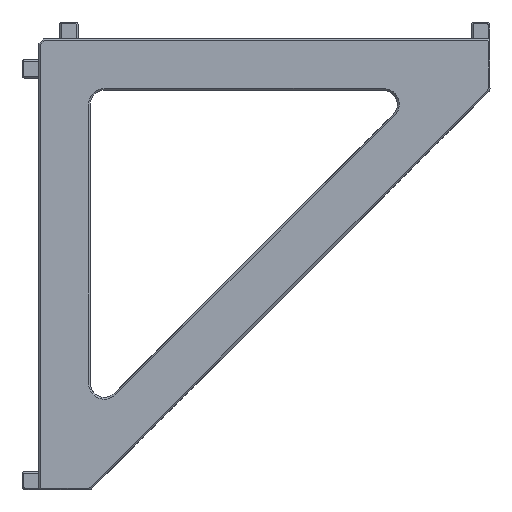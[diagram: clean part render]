
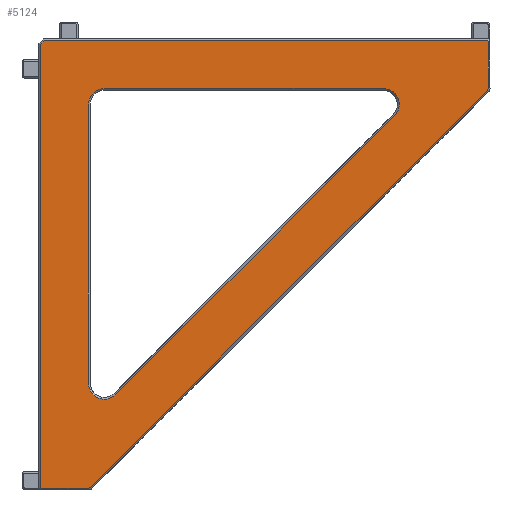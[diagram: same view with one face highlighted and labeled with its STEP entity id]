
A CAD part, front view. The second image highlights one B-rep face of the part: STEP entity #5124.
In plain terms, the highlighted planar face has unit normal (0, -1, 0).
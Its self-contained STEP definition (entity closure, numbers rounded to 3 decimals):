
#12 = CARTESIAN_POINT ( 'NONE',  ( 49.712, 0., -7.305 ) ) ;
#102 = VERTEX_POINT ( 'NONE', #2669 ) ;
#128 = CARTESIAN_POINT ( 'NONE',  ( 7.093, 0., -49.8 ) ) ;
#324 = CARTESIAN_POINT ( 'NONE',  ( 7.1, 0., -8.8 ) ) ;
#370 = ORIENTED_EDGE ( 'NONE', *, *, #4143, .F. ) ;
#586 = EDGE_CURVE ( 'NONE', #102, #2717, #5660, .T. ) ;
#590 = CARTESIAN_POINT ( 'NONE',  ( 7.305, 0., -49.712 ) ) ;
#604 = CARTESIAN_POINT ( 'NONE',  ( 49.712, 0., -7.305 ) ) ;
#619 = DIRECTION ( 'NONE',  ( 0., 0., 1. ) ) ;
#725 = CARTESIAN_POINT ( 'NONE',  ( 38.601, 0., -8.8 ) ) ;
#751 = ORIENTED_EDGE ( 'NONE', *, *, #7399, .F. ) ;
#775 = EDGE_CURVE ( 'NONE', #3687, #3125, #5927, .T. ) ;
#876 = DIRECTION ( 'NONE',  ( 0., 0., 1. ) ) ;
#995 = AXIS2_PLACEMENT_3D ( 'NONE', #2435, #5630, #8808 ) ;
#1010 = AXIS2_PLACEMENT_3D ( 'NONE', #6008, #9186, #2035 ) ;
#1079 = ORIENTED_EDGE ( 'NONE', *, *, #3416, .F. ) ;
#1380 = LINE ( 'NONE', #4590, #7057 ) ;
#1670 = DIRECTION ( 'NONE',  ( 0., 0., -1. ) ) ;
#1701 = DIRECTION ( 'NONE',  ( -0.707, 0., 0.707 ) ) ;
#1725 = DIRECTION ( 'NONE',  ( -1., 0., 0. ) ) ;
#1765 = VERTEX_POINT ( 'NONE', #590 ) ;
#1917 = CARTESIAN_POINT ( 'NONE',  ( 0., 0., -2. ) ) ;
#1929 = VECTOR ( 'NONE', #1701, 1000. ) ;
#1935 = CARTESIAN_POINT ( 'NONE',  ( 49.717, 0., -2. ) ) ;
#1950 = DIRECTION ( 'NONE',  ( 0.707, 0., 0.707 ) ) ;
#2007 = ORIENTED_EDGE ( 'NONE', *, *, #5596, .F. ) ;
#2013 = CARTESIAN_POINT ( 'NONE',  ( 2.383, 0., -2. ) ) ;
#2035 = DIRECTION ( 'NONE',  ( 0., 0., 1. ) ) ;
#2163 = CARTESIAN_POINT ( 'NONE',  ( 8.8, 0., -8.8 ) ) ;
#2225 = CIRCLE ( 'NONE', #3401, 1.7 ) ;
#2331 = VECTOR ( 'NONE', #3203, 1000. ) ;
#2339 = DIRECTION ( 'NONE',  ( 0., 0., 1. ) ) ;
#2381 = EDGE_CURVE ( 'NONE', #3793, #102, #6485, .T. ) ;
#2392 = EDGE_CURVE ( 'NONE', #2717, #6950, #5707, .T. ) ;
#2420 = CARTESIAN_POINT ( 'NONE',  ( 0., 0., -49.8 ) ) ;
#2435 = CARTESIAN_POINT ( 'NONE',  ( 8.8, 0., -38.601 ) ) ;
#2453 = CARTESIAN_POINT ( 'NONE',  ( 2., 0., -2.383 ) ) ;
#2455 = CARTESIAN_POINT ( 'NONE',  ( 49.8, 0., -2.083 ) ) ;
#2512 = DIRECTION ( 'NONE',  ( 0.707, 0., 0.707 ) ) ;
#2556 = VERTEX_POINT ( 'NONE', #4291 ) ;
#2669 = CARTESIAN_POINT ( 'NONE',  ( 39.803, 0., -10.002 ) ) ;
#2717 = VERTEX_POINT ( 'NONE', #9384 ) ;
#2811 = CARTESIAN_POINT ( 'NONE',  ( 49.8, 0., -7.093 ) ) ;
#2817 = PLANE ( 'NONE',  #1010 ) ;
#2876 = EDGE_CURVE ( 'NONE', #4091, #3793, #2225, .T. ) ;
#2931 = EDGE_CURVE ( 'NONE', #1765, #4543, #5080, .T. ) ;
#3105 = ORIENTED_EDGE ( 'NONE', *, *, #2931, .F. ) ;
#3125 = VERTEX_POINT ( 'NONE', #2013 ) ;
#3175 = DIRECTION ( 'NONE',  ( 0., -1., 0. ) ) ;
#3203 = DIRECTION ( 'NONE',  ( -0.707, 0., -0.707 ) ) ;
#3282 = EDGE_CURVE ( 'NONE', #6950, #6079, #5857, .T. ) ;
#3401 = AXIS2_PLACEMENT_3D ( 'NONE', #10321, #3175, #6370 ) ;
#3416 = EDGE_CURVE ( 'NONE', #3125, #7484, #9074, .T. ) ;
#3510 = VECTOR ( 'NONE', #1670, 1000. ) ;
#3633 = ORIENTED_EDGE ( 'NONE', *, *, #7969, .F. ) ;
#3687 = VERTEX_POINT ( 'NONE', #2453 ) ;
#3688 = EDGE_CURVE ( 'NONE', #6079, #9415, #5649, .T. ) ;
#3793 = VERTEX_POINT ( 'NONE', #5895 ) ;
#3920 = AXIS2_PLACEMENT_3D ( 'NONE', #4855, #8039, #876 ) ;
#3932 = DIRECTION ( 'NONE',  ( 0., -1., 0. ) ) ;
#4091 = VERTEX_POINT ( 'NONE', #10209 ) ;
#4143 = EDGE_CURVE ( 'NONE', #4844, #3687, #6312, .T. ) ;
#4251 = VECTOR ( 'NONE', #2512, 1000. ) ;
#4291 = CARTESIAN_POINT ( 'NONE',  ( 2.083, 0., -49.8 ) ) ;
#4321 = ORIENTED_EDGE ( 'NONE', *, *, #5012, .F. ) ;
#4543 = VERTEX_POINT ( 'NONE', #128 ) ;
#4582 = ORIENTED_EDGE ( 'NONE', *, *, #9400, .F. ) ;
#4590 = CARTESIAN_POINT ( 'NONE',  ( 49.8, 0., 0. ) ) ;
#4606 = CARTESIAN_POINT ( 'NONE',  ( 49.5, 0., -7.093 ) ) ;
#4693 = VECTOR ( 'NONE', #2339, 1000. ) ;
#4844 = VERTEX_POINT ( 'NONE', #5769 ) ;
#4855 = CARTESIAN_POINT ( 'NONE',  ( 7.093, 0., -49.5 ) ) ;
#4981 = EDGE_LOOP ( 'NONE', ( #8468, #370, #751, #8694, #3105, #4582, #3633, #2007, #4321, #1079 ) ) ;
#5012 = EDGE_CURVE ( 'NONE', #7484, #5398, #9091, .T. ) ;
#5080 = CIRCLE ( 'NONE', #3920, 0.3 ) ;
#5107 = DIRECTION ( 'NONE',  ( 1., 0., 0. ) ) ;
#5122 = DIRECTION ( 'NONE',  ( 0.707, 0., -0.707 ) ) ;
#5124 = ADVANCED_FACE ( 'NONE', ( #6792, #9960 ), #2817, .F. ) ;
#5185 = VECTOR ( 'NONE', #5122, 1000. ) ;
#5355 = DIRECTION ( 'NONE',  ( 0., -1., 0. ) ) ;
#5398 = VERTEX_POINT ( 'NONE', #2455 ) ;
#5491 = CIRCLE ( 'NONE', #995, 1.7 ) ;
#5523 = ORIENTED_EDGE ( 'NONE', *, *, #2392, .F. ) ;
#5596 = EDGE_CURVE ( 'NONE', #5398, #10216, #1380, .T. ) ;
#5614 = DIRECTION ( 'NONE',  ( -1., 0., 0. ) ) ;
#5630 = DIRECTION ( 'NONE',  ( 0., -1., 0. ) ) ;
#5649 = LINE ( 'NONE', #8825, #3510 ) ;
#5660 = CIRCLE ( 'NONE', #5986, 1.7 ) ;
#5682 = LINE ( 'NONE', #8860, #1929 ) ;
#5696 = VECTOR ( 'NONE', #5107, 1000. ) ;
#5707 = LINE ( 'NONE', #8887, #8410 ) ;
#5769 = CARTESIAN_POINT ( 'NONE',  ( 2., 0., -49.717 ) ) ;
#5857 = CIRCLE ( 'NONE', #7346, 1.7 ) ;
#5895 = CARTESIAN_POINT ( 'NONE',  ( 10.002, 0., -39.803 ) ) ;
#5927 = LINE ( 'NONE', #9108, #9967 ) ;
#5986 = AXIS2_PLACEMENT_3D ( 'NONE', #725, #3932, #7102 ) ;
#6008 = CARTESIAN_POINT ( 'NONE',  ( 0., 0., 0. ) ) ;
#6079 = VERTEX_POINT ( 'NONE', #324 ) ;
#6120 = ORIENTED_EDGE ( 'NONE', *, *, #3688, .F. ) ;
#6258 = ORIENTED_EDGE ( 'NONE', *, *, #3282, .F. ) ;
#6312 = LINE ( 'NONE', #9481, #4693 ) ;
#6348 = AXIS2_PLACEMENT_3D ( 'NONE', #4606, #7786, #619 ) ;
#6370 = DIRECTION ( 'NONE',  ( 0., 0., -1. ) ) ;
#6397 = CARTESIAN_POINT ( 'NONE',  ( 7.1, 0., -38.601 ) ) ;
#6485 = LINE ( 'NONE', #9657, #4251 ) ;
#6519 = CIRCLE ( 'NONE', #6348, 0.3 ) ;
#6792 = FACE_BOUND ( 'NONE', #7813, .T. ) ;
#6950 = VERTEX_POINT ( 'NONE', #9117 ) ;
#7057 = VECTOR ( 'NONE', #7767, 1000. ) ;
#7102 = DIRECTION ( 'NONE',  ( 0., 0., -1. ) ) ;
#7180 = LINE ( 'NONE', #12, #2331 ) ;
#7346 = AXIS2_PLACEMENT_3D ( 'NONE', #2163, #5355, #8540 ) ;
#7399 = EDGE_CURVE ( 'NONE', #2556, #4844, #5682, .T. ) ;
#7484 = VERTEX_POINT ( 'NONE', #9012 ) ;
#7767 = DIRECTION ( 'NONE',  ( 0., 0., -1. ) ) ;
#7786 = DIRECTION ( 'NONE',  ( 0., 1., 0. ) ) ;
#7813 = EDGE_LOOP ( 'NONE', ( #6258, #5523, #7935, #9159, #8896, #7850, #6120 ) ) ;
#7850 = ORIENTED_EDGE ( 'NONE', *, *, #8560, .F. ) ;
#7935 = ORIENTED_EDGE ( 'NONE', *, *, #586, .F. ) ;
#7969 = EDGE_CURVE ( 'NONE', #10216, #8480, #6519, .T. ) ;
#8039 = DIRECTION ( 'NONE',  ( 0., 1., 0. ) ) ;
#8181 = VECTOR ( 'NONE', #5614, 1000. ) ;
#8410 = VECTOR ( 'NONE', #1725, 1000. ) ;
#8468 = ORIENTED_EDGE ( 'NONE', *, *, #775, .F. ) ;
#8480 = VERTEX_POINT ( 'NONE', #604 ) ;
#8540 = DIRECTION ( 'NONE',  ( 0., 0., -1. ) ) ;
#8560 = EDGE_CURVE ( 'NONE', #9415, #4091, #5491, .T. ) ;
#8694 = ORIENTED_EDGE ( 'NONE', *, *, #9416, .F. ) ;
#8808 = DIRECTION ( 'NONE',  ( 0., 0., -1. ) ) ;
#8825 = CARTESIAN_POINT ( 'NONE',  ( 7.1, 0., 0. ) ) ;
#8860 = CARTESIAN_POINT ( 'NONE',  ( 2.083, 0., -49.8 ) ) ;
#8887 = CARTESIAN_POINT ( 'NONE',  ( 0., 0., -7.1 ) ) ;
#8896 = ORIENTED_EDGE ( 'NONE', *, *, #2876, .F. ) ;
#9012 = CARTESIAN_POINT ( 'NONE',  ( 49.717, 0., -2. ) ) ;
#9074 = LINE ( 'NONE', #1917, #5696 ) ;
#9091 = LINE ( 'NONE', #1935, #5185 ) ;
#9108 = CARTESIAN_POINT ( 'NONE',  ( 2., 0., -2.383 ) ) ;
#9117 = CARTESIAN_POINT ( 'NONE',  ( 8.8, 0., -7.1 ) ) ;
#9159 = ORIENTED_EDGE ( 'NONE', *, *, #2381, .F. ) ;
#9186 = DIRECTION ( 'NONE',  ( 0., 1., 0. ) ) ;
#9384 = CARTESIAN_POINT ( 'NONE',  ( 38.601, 0., -7.1 ) ) ;
#9400 = EDGE_CURVE ( 'NONE', #8480, #1765, #7180, .T. ) ;
#9415 = VERTEX_POINT ( 'NONE', #6397 ) ;
#9416 = EDGE_CURVE ( 'NONE', #4543, #2556, #9565, .T. ) ;
#9481 = CARTESIAN_POINT ( 'NONE',  ( 2., 0., 0. ) ) ;
#9565 = LINE ( 'NONE', #2420, #8181 ) ;
#9657 = CARTESIAN_POINT ( 'NONE',  ( 10.002, 0., -39.803 ) ) ;
#9960 = FACE_OUTER_BOUND ( 'NONE', #4981, .T. ) ;
#9967 = VECTOR ( 'NONE', #1950, 1000. ) ;
#10209 = CARTESIAN_POINT ( 'NONE',  ( 8.8, 0., -40.301 ) ) ;
#10216 = VERTEX_POINT ( 'NONE', #2811 ) ;
#10321 = CARTESIAN_POINT ( 'NONE',  ( 8.8, 0., -38.601 ) ) ;
